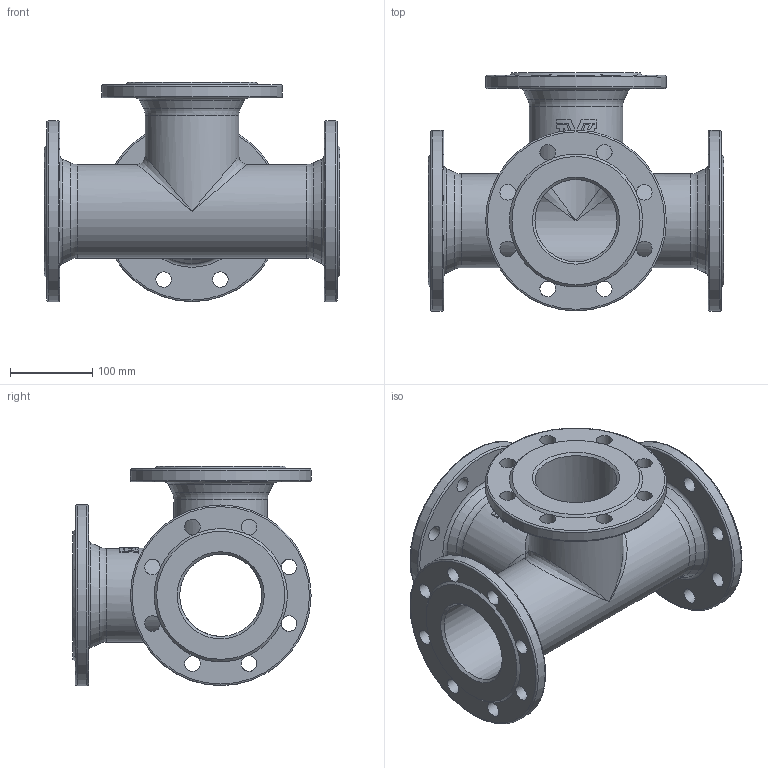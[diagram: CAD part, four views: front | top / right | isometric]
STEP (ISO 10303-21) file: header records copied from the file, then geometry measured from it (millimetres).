
FILE_DESCRIPTION (( 'STEP AP203' ), '1' );
FILE_NAME ('O_712_1110_DN100_AA0.step', '2017-10-13T07:01:34', ( 'Windows User' ), ( 'AVK' ), 'SwSTEP 2.0', 'SolidWorks 2012', '' );
FILE_SCHEMA (( 'CONFIG_CONTROL_DESIGN' ));
Length unit declared in the file: millimetre
Products named in the file (1): O_712_1110_DN100_AA0
Bounding box: 360 x 290 x 267 mm (x, y, z)
Volume: 3147053 mm3; surface area: 619040 mm2
Topology: 1 solids, 1 shells, 174 faces, 558 edges, 356 vertices
Faces by surface type: cylinder 85, plane 47, torus 16, cone 12, bspline 10, sphere 4
Full cylindrical faces by diameter (mm): 19 x32, 100 x3, 114 x3, 220 x4
Entity records: 7035 total; most frequent: CARTESIAN_POINT 2859, ORIENTED_EDGE 852, DIRECTION 780, EDGE_CURVE 426, AXIS2_PLACEMENT_3D 349, VERTEX_POINT 304, EDGE_LOOP 294, FACE_OUTER_BOUND 232
